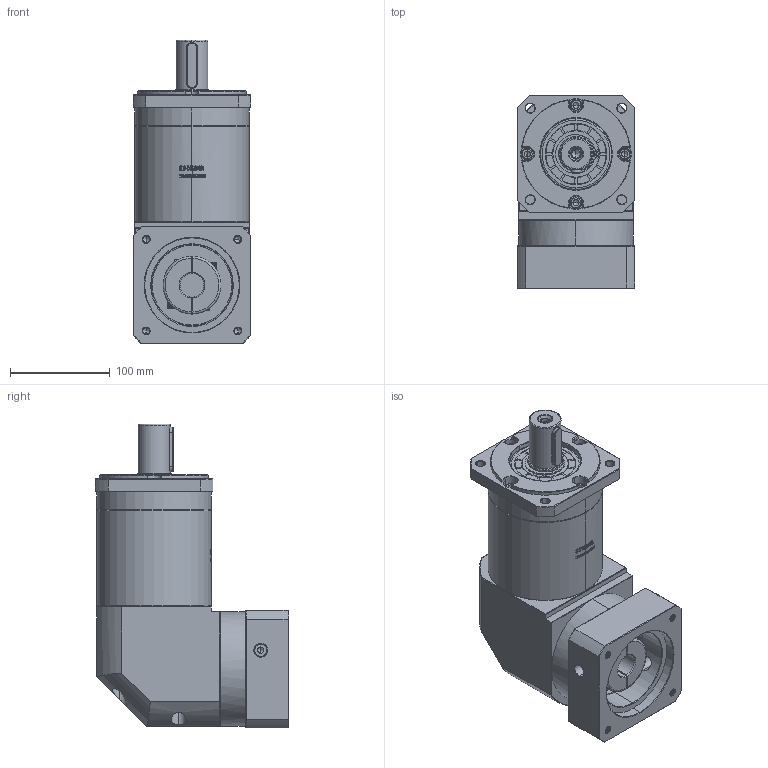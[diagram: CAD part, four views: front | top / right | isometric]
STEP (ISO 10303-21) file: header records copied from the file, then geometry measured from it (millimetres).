
FILE_DESCRIPTION (( 'STEP AP214' ), '1' );
FILE_NAME ('ZFR120A-D32-L3-24-95-130-M8.step', '2023-03-08T08:28:44', ( '' ), ( '' ), 'SwSTEP 2.0', 'SolidWorks 2016', '' );
FILE_SCHEMA (( 'AUTOMOTIVE_DESIGN' ));
Length unit declared in the file: millimetre
Products named in the file (1): ZFR120A-D32-L3-24-95-130-M8
Bounding box: 118 x 193.9 x 305 mm (x, y, z)
Volume: 3502010.1 mm3; surface area: 265497.9 mm2
Topology: 6 solids, 6 shells, 2870 faces, 7680 edges, 4955 vertices
Faces by surface type: plane 1484, bspline 606, cylinder 434, cone 338, torus 8
Entity records: 158167 total; most frequent: CARTESIAN_POINT 60754, ORIENTED_EDGE 15300, DIRECTION 11132, EDGE_CURVE 7650, VERTEX_POINT 4955, VECTOR 4750, LINE 4750, AXIS2_PLACEMENT_3D 3191
